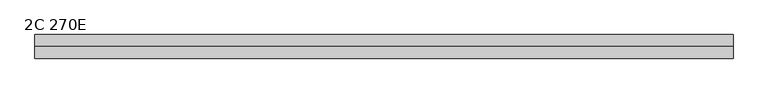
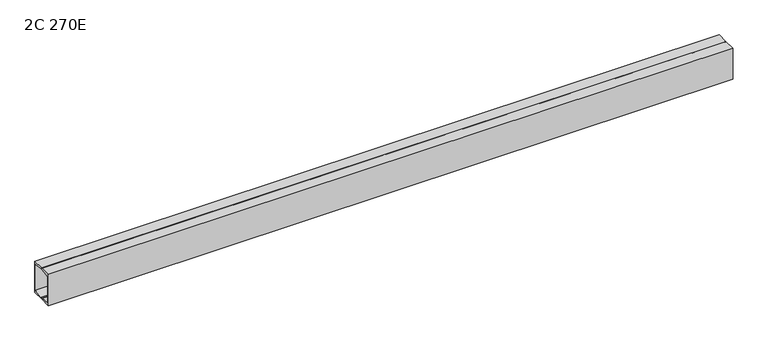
"""IFC4 building model written with IfcOpenShell, lengths in millimetres: beam geometry, RPLN C - Ceowniki ekonomiczne_beamx2 : 2C 270E."""

from ifc_helpers import new_model, si_unit, point, frame, frame_2d, origin, place, context, project, spatial, polyline, circle_curve, trimmed, segment, composite_curve, outline, extrude, source, transform, mapped, element, save


def beam_2c_270e_83d6d2ef(model_context):
    return source(origin(), model_context, "Body", "SweptSolid", [
        extrude(outline(composite_curve([segment(polyline([(-95.0, 135.0), (0.0, 135.0)]), True, "CONTINUOUS"), segment(trimmed(circle_curve(frame_2d((-10.5, 135.0)), 10.5), [point((0.0, 135.0))], [point((-10.5, 124.5))], False, "CARTESIAN"), True, "CONTINUOUS"), segment(polyline([(-10.5, 124.5), (-89.0, 112.0668214), (-89.0, -112.0668214), (-10.5, -124.5)]), True, "CONTINUOUS"), segment(trimmed(circle_curve(frame_2d((-10.5, -135.0)), 10.5), [point((-10.5, -124.5))], [point((0.0, -135.0))], False, "CARTESIAN"), True, "CONTINUOUS"), segment(polyline([(0.0, -135.0), (-95.0, -135.0), (-95.0, 135.0)]), True, "CONTINUOUS")], self_intersect=False)), frame((-2809.5, 0.0, 0.0), z_axis=(1.0, 0.0, 0.0), x_axis=(0.0, 1.0, 0.0)), (0.0, 0.0, 1.0), 5619.0),
        extrude(outline(composite_curve([segment(polyline([(95.0, 135.0), (95.0, -135.0), (0.0, -135.0)]), True, "CONTINUOUS"), segment(trimmed(circle_curve(frame_2d((10.5, -135.0)), 10.5), [point((0.0, -135.0))], [point((10.5, -124.5))], False, "CARTESIAN"), True, "CONTINUOUS"), segment(polyline([(10.5, -124.5), (89.0, -112.0668214), (89.0, 112.0668214), (10.5, 124.5)]), True, "CONTINUOUS"), segment(trimmed(circle_curve(frame_2d((10.5, 135.0)), 10.5), [point((10.5, 124.5))], [point((0.0, 135.0))], False, "CARTESIAN"), True, "CONTINUOUS"), segment(polyline([(0.0, 135.0), (95.0, 135.0)]), True, "CONTINUOUS")], self_intersect=False)), frame((-2809.5, 0.0, 0.0), z_axis=(1.0, 0.0, 0.0), x_axis=(0.0, 1.0, 0.0)), (0.0, 0.0, 1.0), 5619.0),
    ])


if __name__ == "__main__":
    model = new_model("IFC4")
    model_context = context("Model", 3, world=origin())
    ifc_project = project(units=[si_unit("LENGTHUNIT", "METRE", prefix="MILLI")], contexts=[model_context])
    site = spatial("IfcSite", under=ifc_project)
    building = spatial("IfcBuilding", under=site)
    placement = place(None, origin())
    beam_2c_270e_shape = beam_2c_270e_83d6d2ef(model_context)
    element("IfcBeam", 1, ObjectType="RPLN C - Ceowniki ekonomiczne_beamx2 : 2C 270E", at=placement, inside=building, context=model_context, shape_type="MappedRepresentation", body=[
        mapped(beam_2c_270e_shape, transform((0.0, 0.0, 0.0), x_axis=(1.0, 0.0, 0.0), y_axis=(0.0, 1.0, 0.0), z_axis=(0.0, 0.0, 1.0))),
    ])
    save(model, "model.ifc")
